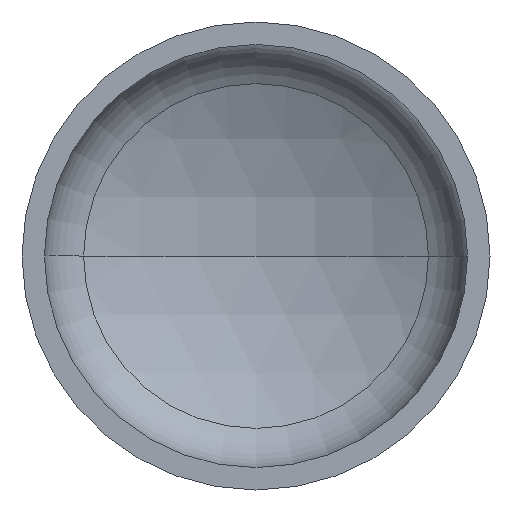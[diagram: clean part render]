
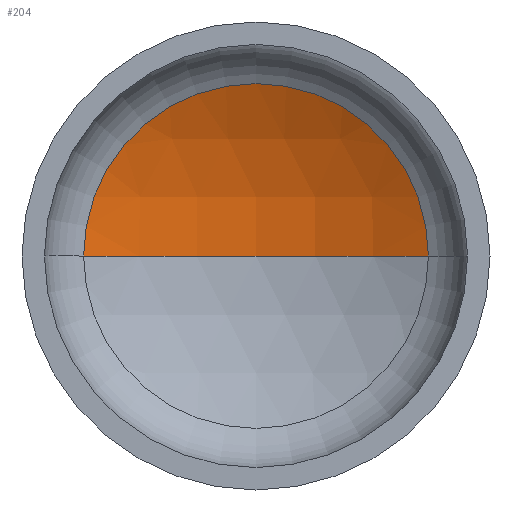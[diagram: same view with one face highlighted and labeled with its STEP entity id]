
A CAD part, front view. The second image highlights one B-rep face of the part: STEP entity #204.
In plain terms, the highlighted spherical face has radius 800 mm.
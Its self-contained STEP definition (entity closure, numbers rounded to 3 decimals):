
#14 = DIRECTION ( 'NONE',  ( -1., 0., 0. ) ) ;
#15 = EDGE_LOOP ( 'NONE', ( #87, #91, #49 ) ) ;
#34 = DIRECTION ( 'NONE',  ( 0., 0., -1. ) ) ;
#49 = ORIENTED_EDGE ( 'NONE', *, *, #212, .T. ) ;
#65 = VERTEX_POINT ( 'NONE', #292 ) ;
#82 = SPHERICAL_SURFACE ( 'NONE', #123, 800. ) ;
#87 = ORIENTED_EDGE ( 'NONE', *, *, #216, .F. ) ;
#91 = ORIENTED_EDGE ( 'NONE', *, *, #213, .T. ) ;
#93 = VERTEX_POINT ( 'NONE', #336 ) ;
#109 = VERTEX_POINT ( 'NONE', #287 ) ;
#117 = AXIS2_PLACEMENT_3D ( 'NONE', #241, #174, #172 ) ;
#119 = AXIS2_PLACEMENT_3D ( 'NONE', #268, #266, #265 ) ;
#122 = AXIS2_PLACEMENT_3D ( 'NONE', #217, #221, #260 ) ;
#123 = AXIS2_PLACEMENT_3D ( 'NONE', #316, #34, #14 ) ;
#172 = DIRECTION ( 'NONE',  ( 1., 0., 0. ) ) ;
#174 = DIRECTION ( 'NONE',  ( 0., 0., 1. ) ) ;
#178 = CIRCLE ( 'NONE', #117, 800. ) ;
#204 = ADVANCED_FACE ( 'NONE', ( #326 ), #82, .F. ) ;
#212 = EDGE_CURVE ( 'NONE', #65, #109, #270, .T. ) ;
#213 = EDGE_CURVE ( 'NONE', #93, #65, #321, .T. ) ;
#216 = EDGE_CURVE ( 'NONE', #93, #109, #178, .T. ) ;
#217 = CARTESIAN_POINT ( 'NONE',  ( 0., 287.59, 0. ) ) ;
#221 = DIRECTION ( 'NONE',  ( 0., -1., 0. ) ) ;
#241 = CARTESIAN_POINT ( 'NONE',  ( 0., -422.552, 0. ) ) ;
#260 = DIRECTION ( 'NONE',  ( 1., 0., 0. ) ) ;
#265 = DIRECTION ( 'NONE',  ( -1., 0., 0. ) ) ;
#266 = DIRECTION ( 'NONE',  ( 0., 0., -1. ) ) ;
#268 = CARTESIAN_POINT ( 'NONE',  ( 0., -422.552, 0. ) ) ;
#270 = CIRCLE ( 'NONE', #122, 368.372 ) ;
#287 = CARTESIAN_POINT ( 'NONE',  ( -368.372, 287.59, 0. ) ) ;
#292 = CARTESIAN_POINT ( 'NONE',  ( 368.372, 287.59, 0. ) ) ;
#316 = CARTESIAN_POINT ( 'NONE',  ( 0., -422.552, 0. ) ) ;
#321 = CIRCLE ( 'NONE', #119, 800. ) ;
#326 = FACE_OUTER_BOUND ( 'NONE', #15, .T. ) ;
#336 = CARTESIAN_POINT ( 'NONE',  ( 0., 377.448, 0. ) ) ;
